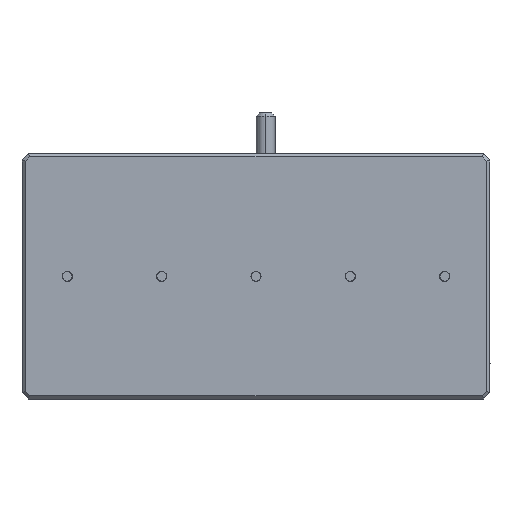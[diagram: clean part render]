
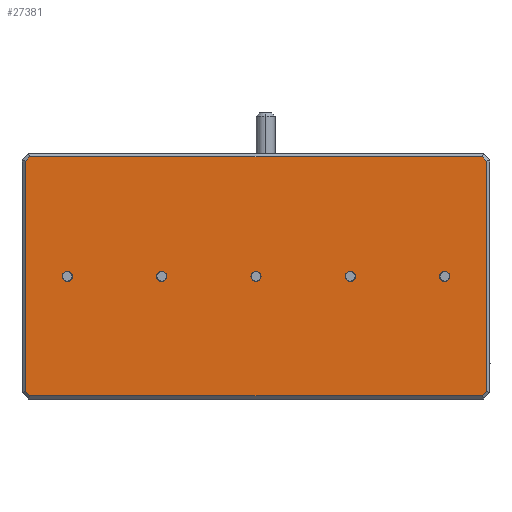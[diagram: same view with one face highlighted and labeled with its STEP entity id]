
A CAD part, front view. The second image highlights one B-rep face of the part: STEP entity #27381.
In plain terms, the highlighted planar face has unit normal (0, -1, 0).
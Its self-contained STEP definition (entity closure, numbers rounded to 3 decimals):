
#7596=DIRECTION('',(0.,0.,1.));
#7597=VECTOR('',#7596,36.586);
#7598=CARTESIAN_POINT('',(-31.7,-0.5,-18.293));
#7599=LINE('',#7598,#7597);
#7604=DIRECTION('',(0.707,0.,0.707));
#7605=VECTOR('',#7604,1.);
#7606=CARTESIAN_POINT('',(-31.7,-0.5,18.293));
#7607=LINE('',#7606,#7605);
#7608=DIRECTION('',(1.,0.,0.));
#7609=VECTOR('',#7608,71.986);
#7610=CARTESIAN_POINT('',(-30.993,-0.5,19.));
#7611=LINE('',#7610,#7609);
#7612=DIRECTION('',(0.707,0.,-0.707));
#7613=VECTOR('',#7612,1.);
#7614=CARTESIAN_POINT('',(40.993,-0.5,19.));
#7615=LINE('',#7614,#7613);
#7616=DIRECTION('',(-0.707,0.,-0.707));
#7617=VECTOR('',#7616,1.);
#7618=CARTESIAN_POINT('',(41.7,-0.5,-18.293));
#7619=LINE('',#7618,#7617);
#7620=DIRECTION('',(-0.707,0.,0.707));
#7621=VECTOR('',#7620,1.);
#7622=CARTESIAN_POINT('',(-30.993,-0.5,-19.));
#7623=LINE('',#7622,#7621);
#7624=CARTESIAN_POINT('',(35.,-0.5,0.));
#7625=DIRECTION('',(0.,-1.,0.));
#7626=DIRECTION('',(-1.,0.,0.));
#7627=AXIS2_PLACEMENT_3D('',#7624,#7625,#7626);
#7629=CARTESIAN_POINT('',(35.,-0.5,0.));
#7630=DIRECTION('',(0.,-1.,0.));
#7631=DIRECTION('',(1.,0.,0.));
#7632=AXIS2_PLACEMENT_3D('',#7629,#7630,#7631);
#7634=CARTESIAN_POINT('',(-25.,-0.5,0.));
#7635=DIRECTION('',(0.,-1.,0.));
#7636=DIRECTION('',(-1.,0.,0.));
#7637=AXIS2_PLACEMENT_3D('',#7634,#7635,#7636);
#7639=CARTESIAN_POINT('',(-25.,-0.5,0.));
#7640=DIRECTION('',(0.,-1.,0.));
#7641=DIRECTION('',(1.,0.,0.));
#7642=AXIS2_PLACEMENT_3D('',#7639,#7640,#7641);
#7644=CARTESIAN_POINT('',(-10.,-0.5,0.));
#7645=DIRECTION('',(0.,-1.,0.));
#7646=DIRECTION('',(-1.,0.,0.));
#7647=AXIS2_PLACEMENT_3D('',#7644,#7645,#7646);
#7649=CARTESIAN_POINT('',(-10.,-0.5,0.));
#7650=DIRECTION('',(0.,-1.,0.));
#7651=DIRECTION('',(1.,0.,0.));
#7652=AXIS2_PLACEMENT_3D('',#7649,#7650,#7651);
#7654=CARTESIAN_POINT('',(5.,-0.5,0.));
#7655=DIRECTION('',(0.,-1.,0.));
#7656=DIRECTION('',(-1.,0.,0.));
#7657=AXIS2_PLACEMENT_3D('',#7654,#7655,#7656);
#7659=CARTESIAN_POINT('',(5.,-0.5,0.));
#7660=DIRECTION('',(0.,-1.,0.));
#7661=DIRECTION('',(1.,0.,0.));
#7662=AXIS2_PLACEMENT_3D('',#7659,#7660,#7661);
#7664=CARTESIAN_POINT('',(20.,-0.5,0.));
#7665=DIRECTION('',(0.,-1.,0.));
#7666=DIRECTION('',(-1.,0.,0.));
#7667=AXIS2_PLACEMENT_3D('',#7664,#7665,#7666);
#7669=CARTESIAN_POINT('',(20.,-0.5,0.));
#7670=DIRECTION('',(0.,-1.,0.));
#7671=DIRECTION('',(1.,0.,0.));
#7672=AXIS2_PLACEMENT_3D('',#7669,#7670,#7671);
#7902=DIRECTION('',(-1.,0.,0.));
#7903=VECTOR('',#7902,71.986);
#7904=CARTESIAN_POINT('',(40.993,-0.5,-19.));
#7905=LINE('',#7904,#7903);
#7914=DIRECTION('',(0.,0.,-1.));
#7915=VECTOR('',#7914,36.586);
#7916=CARTESIAN_POINT('',(41.7,-0.5,18.293));
#7917=LINE('',#7916,#7915);
#15544=CARTESIAN_POINT('',(-30.993,-0.5,19.));
#15545=CARTESIAN_POINT('',(40.993,-0.5,19.));
#15546=VERTEX_POINT('',#15544);
#15547=VERTEX_POINT('',#15545);
#15548=CARTESIAN_POINT('',(-31.7,-0.5,18.293));
#15549=VERTEX_POINT('',#15548);
#15550=CARTESIAN_POINT('',(-31.7,-0.5,-18.293));
#15551=VERTEX_POINT('',#15550);
#15552=CARTESIAN_POINT('',(-30.993,-0.5,-19.));
#15553=VERTEX_POINT('',#15552);
#15554=CARTESIAN_POINT('',(40.993,-0.5,-19.));
#15555=VERTEX_POINT('',#15554);
#15556=CARTESIAN_POINT('',(41.7,-0.5,-18.293));
#15557=VERTEX_POINT('',#15556);
#15558=CARTESIAN_POINT('',(41.7,-0.5,18.293));
#15559=VERTEX_POINT('',#15558);
#15560=CARTESIAN_POINT('',(34.2,-0.5,0.));
#15561=CARTESIAN_POINT('',(35.8,-0.5,0.));
#15562=VERTEX_POINT('',#15560);
#15563=VERTEX_POINT('',#15561);
#15564=CARTESIAN_POINT('',(-25.8,-0.5,0.));
#15565=CARTESIAN_POINT('',(-24.2,-0.5,0.));
#15566=VERTEX_POINT('',#15564);
#15567=VERTEX_POINT('',#15565);
#15568=CARTESIAN_POINT('',(-10.8,-0.5,0.));
#15569=CARTESIAN_POINT('',(-9.2,-0.5,0.));
#15570=VERTEX_POINT('',#15568);
#15571=VERTEX_POINT('',#15569);
#15572=CARTESIAN_POINT('',(4.2,-0.5,0.));
#15573=CARTESIAN_POINT('',(5.8,-0.5,0.));
#15574=VERTEX_POINT('',#15572);
#15575=VERTEX_POINT('',#15573);
#15576=CARTESIAN_POINT('',(19.2,-0.5,0.));
#15577=CARTESIAN_POINT('',(20.8,-0.5,0.));
#15578=VERTEX_POINT('',#15576);
#15579=VERTEX_POINT('',#15577);
#27330=CARTESIAN_POINT('',(5.,-0.5,0.));
#27331=DIRECTION('',(0.,1.,0.));
#27332=DIRECTION('',(1.,0.,0.));
#27333=AXIS2_PLACEMENT_3D('',#27330,#27331,#27332);
#27334=PLANE('',#27333);
#27336=ORIENTED_EDGE('',*,*,#27335,.T.);
#27338=ORIENTED_EDGE('',*,*,#27337,.T.);
#27340=ORIENTED_EDGE('',*,*,#27339,.T.);
#27342=ORIENTED_EDGE('',*,*,#27341,.T.);
#27344=ORIENTED_EDGE('',*,*,#27343,.T.);
#27346=ORIENTED_EDGE('',*,*,#27345,.T.);
#27347=ORIENTED_EDGE('',*,*,#27309,.T.);
#27348=ORIENTED_EDGE('',*,*,#27321,.T.);
#27349=EDGE_LOOP('',(#27336,#27338,#27340,#27342,#27344,#27346,#27347,#27348));
#27350=FACE_OUTER_BOUND('',#27349,.F.);
#27352=ORIENTED_EDGE('',*,*,#27351,.T.);
#27354=ORIENTED_EDGE('',*,*,#27353,.T.);
#27355=EDGE_LOOP('',(#27352,#27354));
#27356=FACE_BOUND('',#27355,.F.);
#27358=ORIENTED_EDGE('',*,*,#27357,.T.);
#27360=ORIENTED_EDGE('',*,*,#27359,.T.);
#27361=EDGE_LOOP('',(#27358,#27360));
#27362=FACE_BOUND('',#27361,.F.);
#27364=ORIENTED_EDGE('',*,*,#27363,.T.);
#27366=ORIENTED_EDGE('',*,*,#27365,.T.);
#27367=EDGE_LOOP('',(#27364,#27366));
#27368=FACE_BOUND('',#27367,.F.);
#27370=ORIENTED_EDGE('',*,*,#27369,.T.);
#27372=ORIENTED_EDGE('',*,*,#27371,.T.);
#27373=EDGE_LOOP('',(#27370,#27372));
#27374=FACE_BOUND('',#27373,.F.);
#27376=ORIENTED_EDGE('',*,*,#27375,.T.);
#27378=ORIENTED_EDGE('',*,*,#27377,.T.);
#27379=EDGE_LOOP('',(#27376,#27378));
#27380=FACE_BOUND('',#27379,.F.);
#27381=ADVANCED_FACE('',(#27350,#27356,#27362,#27368,#27374,#27380),#27334,.F.);
#7628=CIRCLE('',#7627,0.8);
#7633=CIRCLE('',#7632,0.8);
#7638=CIRCLE('',#7637,0.8);
#7643=CIRCLE('',#7642,0.8);
#7648=CIRCLE('',#7647,0.8);
#7653=CIRCLE('',#7652,0.8);
#7658=CIRCLE('',#7657,0.8);
#7663=CIRCLE('',#7662,0.8);
#7668=CIRCLE('',#7667,0.8);
#7673=CIRCLE('',#7672,0.8);
#27309=EDGE_CURVE('',#15553,#15551,#7623,.T.);
#27321=EDGE_CURVE('',#15551,#15549,#7599,.T.);
#27335=EDGE_CURVE('',#15549,#15546,#7607,.T.);
#27337=EDGE_CURVE('',#15546,#15547,#7611,.T.);
#27339=EDGE_CURVE('',#15547,#15559,#7615,.T.);
#27341=EDGE_CURVE('',#15559,#15557,#7917,.T.);
#27343=EDGE_CURVE('',#15557,#15555,#7619,.T.);
#27345=EDGE_CURVE('',#15555,#15553,#7905,.T.);
#27351=EDGE_CURVE('',#15562,#15563,#7628,.T.);
#27353=EDGE_CURVE('',#15563,#15562,#7633,.T.);
#27357=EDGE_CURVE('',#15566,#15567,#7638,.T.);
#27359=EDGE_CURVE('',#15567,#15566,#7643,.T.);
#27363=EDGE_CURVE('',#15570,#15571,#7648,.T.);
#27365=EDGE_CURVE('',#15571,#15570,#7653,.T.);
#27369=EDGE_CURVE('',#15574,#15575,#7658,.T.);
#27371=EDGE_CURVE('',#15575,#15574,#7663,.T.);
#27375=EDGE_CURVE('',#15578,#15579,#7668,.T.);
#27377=EDGE_CURVE('',#15579,#15578,#7673,.T.);
